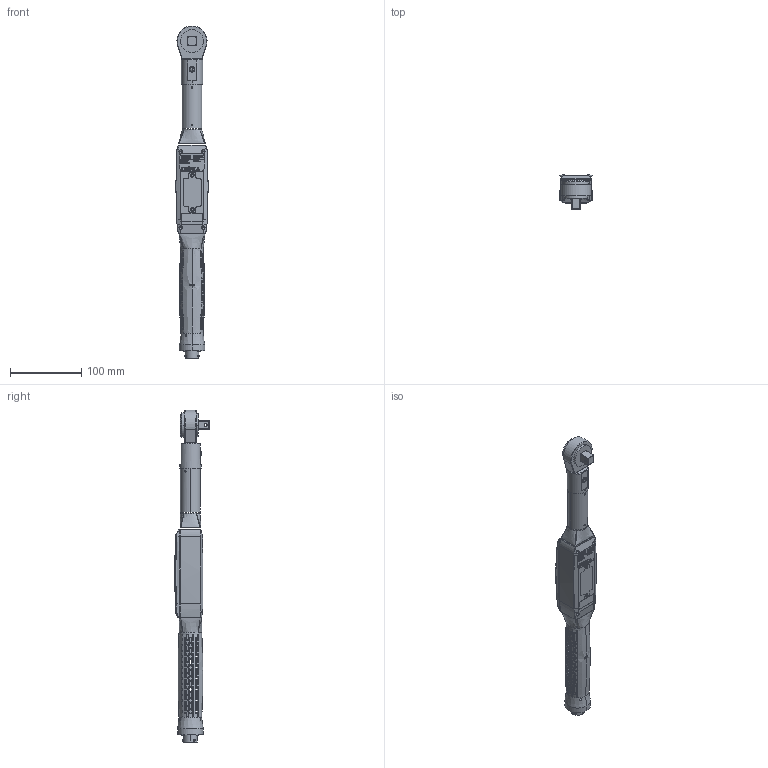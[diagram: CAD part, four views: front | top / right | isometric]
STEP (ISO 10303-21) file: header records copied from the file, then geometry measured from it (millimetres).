
FILE_DESCRIPTION((''),'2;1');
FILE_NAME('6152210410_DIM','2021-12-06T16:10:53',('S00000450'),(''),'CREO PARAMETRIC BY PTC INC, 2021072','CREO PARAMETRIC BY PTC INC, 2021072','');
FILE_SCHEMA(('AP242_MANAGED_MODEL_BASED_3D_ENGINEERING_MIM_LF { 1 0 10303 442 1 1 4 }'));
Length unit declared in the file: millimetre
Products named in the file (1): 6152210410_DIM
Bounding box: 45.16 x 48.55 x 467.2 mm (x, y, z)
Surface area: 59896 mm2 (no closed solid volume)
Topology: 0 solids, 307 shells, 632 faces, 6424 edges, 6040 vertices
Faces by surface type: bspline 329, plane 169, cylinder 82, cone 24, sphere 19, extrusion 9
Entity records: 120892 total; most frequent: CARTESIAN_POINT 80752, ORIENTED_EDGE 6942, EDGE_CURVE 6407, VERTEX_POINT 6040, DIRECTION 3994, B_SPLINE_CURVE_WITH_KNOTS 3830, VECTOR 1784, LINE 1775
